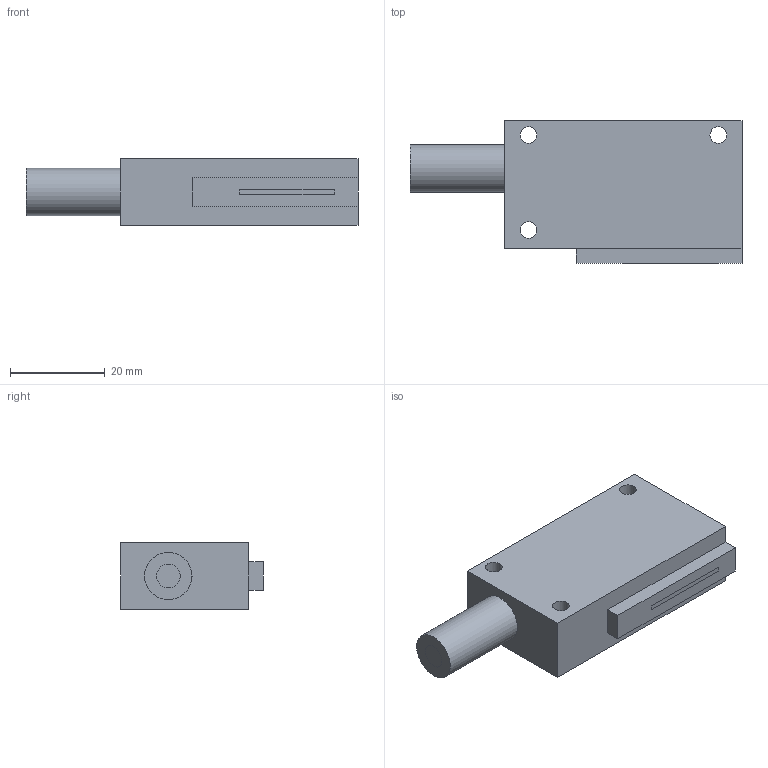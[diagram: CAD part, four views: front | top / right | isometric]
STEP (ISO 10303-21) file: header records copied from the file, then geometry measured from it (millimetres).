
FILE_DESCRIPTION(/* description */ (''),/* implementation_level */ '2;1');
FILE_NAME(/* name */ '',/* time_stamp */ '2023-02-24T17:42:42+09:00',/* author */ (''),/* organization */ (''),/* preprocessor_version */ 'ST-DEVELOPER v19.2',/* originating_system */ 'Autodesk Translation Framework v11.17.0.187',/* authorisation */ '');
FILE_SCHEMA (('AUTOMOTIVE_DESIGN { 1 0 10303 214 3 1 1 }'));
Length unit declared in the file: millimetre
Products named in the file (1): LR20×1.0 照射部
Bounding box: 70 x 30 x 14 mm (x, y, z)
Volume: 20696.7 mm3; surface area: 6947.8 mm2
Topology: 4 solids, 4 shells, 32 faces, 66 edges, 44 vertices
Faces by surface type: plane 26, cylinder 6
Full cylindrical faces by diameter (mm): 3.5 x3, 5 x2, 10 x1
Entity records: 884 total; most frequent: DIRECTION 144, CARTESIAN_POINT 143, ORIENTED_EDGE 132, EDGE_CURVE 66, LINE 54, VECTOR 54, AXIS2_PLACEMENT_3D 45, VERTEX_POINT 44
